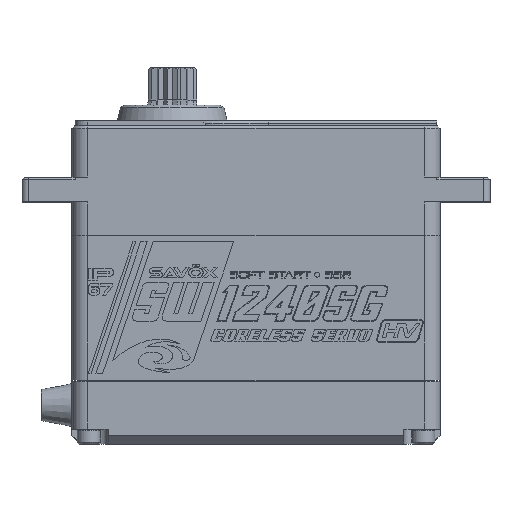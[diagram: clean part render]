
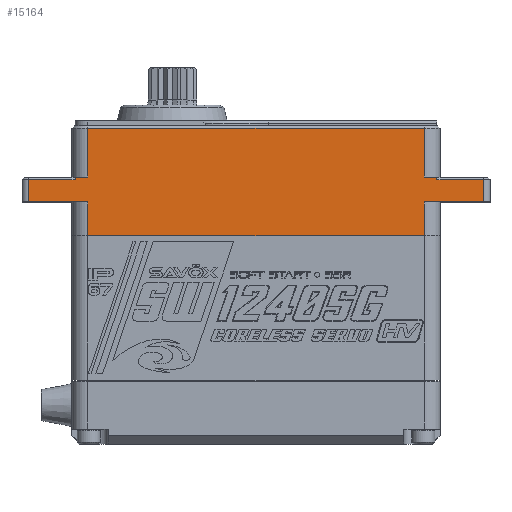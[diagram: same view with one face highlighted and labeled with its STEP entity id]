
A CAD part, top view. The second image highlights one B-rep face of the part: STEP entity #15164.
In plain terms, the highlighted planar face has unit normal (0, 0, 1).
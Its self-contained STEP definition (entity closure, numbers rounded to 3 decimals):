
#135 = ORIENTED_EDGE ( 'NONE', *, *, #6417, .F. ) ;
#343 = PLANE ( 'NONE',  #15734 ) ;
#466 = LINE ( 'NONE', #32933, #11670 ) ;
#509 = VECTOR ( 'NONE', #16575, 1000. ) ;
#1052 = CARTESIAN_POINT ( 'NONE',  ( 42.91, 3.6, 14.5 ) ) ;
#1251 = EDGE_CURVE ( 'NONE', #25805, #27535, #466, .T. ) ;
#1356 = CARTESIAN_POINT ( 'NONE',  ( 49.91, 3.6, 14.5 ) ) ;
#2468 = CARTESIAN_POINT ( 'NONE',  ( -13.59, 11.8, 14.5 ) ) ;
#2561 = VECTOR ( 'NONE', #33308, 1000. ) ;
#3022 = EDGE_CURVE ( 'NONE', #26214, #32705, #41050, .T. ) ;
#3248 = CARTESIAN_POINT ( 'NONE',  ( 42.41, 4., 14.5 ) ) ;
#3491 = VECTOR ( 'NONE', #35565, 1000. ) ;
#3664 = VERTEX_POINT ( 'NONE', #3248 ) ;
#3745 = CARTESIAN_POINT ( 'NONE',  ( 42.41, 3.6, 14.5 ) ) ;
#4794 = CARTESIAN_POINT ( 'NONE',  ( 40.41, 0., 14.5 ) ) ;
#5344 = EDGE_CURVE ( 'NONE', #10878, #34722, #10591, .T. ) ;
#6025 = VERTEX_POINT ( 'NONE', #25762 ) ;
#6087 = ORIENTED_EDGE ( 'NONE', *, *, #29195, .F. ) ;
#6361 = CARTESIAN_POINT ( 'NONE',  ( -13.59, 4., 14.5 ) ) ;
#6417 = EDGE_CURVE ( 'NONE', #32615, #10136, #34777, .T. ) ;
#6473 = CARTESIAN_POINT ( 'NONE',  ( -15.59, 4., 14.5 ) ) ;
#6906 = ORIENTED_EDGE ( 'NONE', *, *, #22953, .F. ) ;
#7011 = VECTOR ( 'NONE', #12028, 1000. ) ;
#8202 = VERTEX_POINT ( 'NONE', #38877 ) ;
#8780 = VECTOR ( 'NONE', #28165, 1000. ) ;
#9494 = CARTESIAN_POINT ( 'NONE',  ( -23.09, 13., 14.5 ) ) ;
#9963 = ORIENTED_EDGE ( 'NONE', *, *, #1251, .F. ) ;
#10136 = VERTEX_POINT ( 'NONE', #15707 ) ;
#10354 = DIRECTION ( 'NONE',  ( 0., -1., 0. ) ) ;
#10591 = LINE ( 'NONE', #16589, #14712 ) ;
#10820 = DIRECTION ( 'NONE',  ( 0., 1., 0. ) ) ;
#10878 = VERTEX_POINT ( 'NONE', #36876 ) ;
#10982 = ORIENTED_EDGE ( 'NONE', *, *, #34478, .F. ) ;
#11521 = CARTESIAN_POINT ( 'NONE',  ( 42.91, 0., 14.5 ) ) ;
#11670 = VECTOR ( 'NONE', #10820, 1000. ) ;
#12028 = DIRECTION ( 'NONE',  ( 0., 1., 0. ) ) ;
#12337 = ORIENTED_EDGE ( 'NONE', *, *, #15350, .F. ) ;
#12647 = FACE_OUTER_BOUND ( 'NONE', #31486, .T. ) ;
#13597 = VECTOR ( 'NONE', #17617, 1000. ) ;
#13636 = VECTOR ( 'NONE', #21138, 1000. ) ;
#14712 = VECTOR ( 'NONE', #26542, 1000. ) ;
#15164 = ADVANCED_FACE ( 'NONE', ( #12647 ), #343, .F. ) ;
#15350 = EDGE_CURVE ( 'NONE', #19691, #38896, #40548, .T. ) ;
#15626 = DIRECTION ( 'NONE',  ( 1., 0., 0. ) ) ;
#15707 = CARTESIAN_POINT ( 'NONE',  ( -13.59, 0., 14.5 ) ) ;
#15734 = AXIS2_PLACEMENT_3D ( 'NONE', #16497, #29005, #18838 ) ;
#16486 = VERTEX_POINT ( 'NONE', #27916 ) ;
#16497 = CARTESIAN_POINT ( 'NONE',  ( -13.59, -5.4, 14.5 ) ) ;
#16575 = DIRECTION ( 'NONE',  ( 1., 0., 0. ) ) ;
#16589 = CARTESIAN_POINT ( 'NONE',  ( -15.59, 13., 14.5 ) ) ;
#16860 = ORIENTED_EDGE ( 'NONE', *, *, #21734, .F. ) ;
#17617 = DIRECTION ( 'NONE',  ( 1., 0., 0. ) ) ;
#18141 = EDGE_CURVE ( 'NONE', #10136, #26214, #20937, .T. ) ;
#18207 = DIRECTION ( 'NONE',  ( 0., -1., 0. ) ) ;
#18384 = CARTESIAN_POINT ( 'NONE',  ( 49.91, 0., 14.5 ) ) ;
#18838 = DIRECTION ( 'NONE',  ( -1., 0., 0. ) ) ;
#19210 = ORIENTED_EDGE ( 'NONE', *, *, #38489, .F. ) ;
#19269 = LINE ( 'NONE', #25633, #3491 ) ;
#19380 = EDGE_CURVE ( 'NONE', #34722, #25805, #41912, .T. ) ;
#19691 = VERTEX_POINT ( 'NONE', #18384 ) ;
#20165 = LINE ( 'NONE', #33085, #8780 ) ;
#20390 = LINE ( 'NONE', #36230, #13597 ) ;
#20404 = LINE ( 'NONE', #33312, #40564 ) ;
#20937 = LINE ( 'NONE', #30265, #36254 ) ;
#21138 = DIRECTION ( 'NONE',  ( 1., 0., 0. ) ) ;
#21734 = EDGE_CURVE ( 'NONE', #22909, #19691, #41009, .T. ) ;
#22344 = EDGE_CURVE ( 'NONE', #38896, #16486, #20404, .T. ) ;
#22384 = ORIENTED_EDGE ( 'NONE', *, *, #3022, .F. ) ;
#22389 = ORIENTED_EDGE ( 'NONE', *, *, #41223, .F. ) ;
#22668 = ORIENTED_EDGE ( 'NONE', *, *, #5344, .F. ) ;
#22902 = ORIENTED_EDGE ( 'NONE', *, *, #19380, .F. ) ;
#22909 = VERTEX_POINT ( 'NONE', #1356 ) ;
#22953 = EDGE_CURVE ( 'NONE', #32705, #10878, #28542, .T. ) ;
#22995 = VECTOR ( 'NONE', #18207, 1000. ) ;
#23470 = ORIENTED_EDGE ( 'NONE', *, *, #22344, .F. ) ;
#23808 = VECTOR ( 'NONE', #10354, 1000. ) ;
#23998 = LINE ( 'NONE', #1052, #2561 ) ;
#24125 = DIRECTION ( 'NONE',  ( -1., 0., 0. ) ) ;
#24518 = DIRECTION ( 'NONE',  ( -1., 0., 0. ) ) ;
#24981 = CARTESIAN_POINT ( 'NONE',  ( 49.91, 13., 14.5 ) ) ;
#25149 = CARTESIAN_POINT ( 'NONE',  ( 42.91, 3.6, 14.5 ) ) ;
#25633 = CARTESIAN_POINT ( 'NONE',  ( -13.59, -5.4, 14.5 ) ) ;
#25762 = CARTESIAN_POINT ( 'NONE',  ( 40.41, 11.8, 14.5 ) ) ;
#25805 = VERTEX_POINT ( 'NONE', #6361 ) ;
#26214 = VERTEX_POINT ( 'NONE', #39796 ) ;
#26400 = ORIENTED_EDGE ( 'NONE', *, *, #28218, .F. ) ;
#26527 = VERTEX_POINT ( 'NONE', #3745 ) ;
#26542 = DIRECTION ( 'NONE',  ( 0., 1., 0. ) ) ;
#27535 = VERTEX_POINT ( 'NONE', #2468 ) ;
#27813 = DIRECTION ( 'NONE',  ( 0., -1., 0. ) ) ;
#27916 = CARTESIAN_POINT ( 'NONE',  ( 40.41, -5.4, 14.5 ) ) ;
#28165 = DIRECTION ( 'NONE',  ( 0., -1., 0. ) ) ;
#28173 = LINE ( 'NONE', #41016, #35948 ) ;
#28218 = EDGE_CURVE ( 'NONE', #6025, #8202, #20165, .T. ) ;
#28542 = LINE ( 'NONE', #25149, #13636 ) ;
#28936 = CARTESIAN_POINT ( 'NONE',  ( -23.09, 3.6, 14.5 ) ) ;
#29005 = DIRECTION ( 'NONE',  ( 0., 0., -1. ) ) ;
#29195 = EDGE_CURVE ( 'NONE', #8202, #3664, #28173, .T. ) ;
#30265 = CARTESIAN_POINT ( 'NONE',  ( 42.91, 0., 14.5 ) ) ;
#31486 = EDGE_LOOP ( 'NONE', ( #36555, #23470, #12337, #16860, #19210, #22389, #6087, #26400, #10982, #9963, #22902, #22668, #6906, #22384, #38338, #135 ) ) ;
#32615 = VERTEX_POINT ( 'NONE', #38190 ) ;
#32663 = CARTESIAN_POINT ( 'NONE',  ( 42.91, 4., 14.5 ) ) ;
#32705 = VERTEX_POINT ( 'NONE', #28936 ) ;
#32933 = CARTESIAN_POINT ( 'NONE',  ( -13.59, 13., 14.5 ) ) ;
#33077 = LINE ( 'NONE', #33269, #23808 ) ;
#33085 = CARTESIAN_POINT ( 'NONE',  ( 40.41, 13., 14.5 ) ) ;
#33269 = CARTESIAN_POINT ( 'NONE',  ( 42.41, 13., 14.5 ) ) ;
#33308 = DIRECTION ( 'NONE',  ( 1., 0., 0. ) ) ;
#33312 = CARTESIAN_POINT ( 'NONE',  ( 40.41, -5.4, 14.5 ) ) ;
#34478 = EDGE_CURVE ( 'NONE', #27535, #6025, #20390, .T. ) ;
#34722 = VERTEX_POINT ( 'NONE', #6473 ) ;
#34777 = LINE ( 'NONE', #41478, #40389 ) ;
#35565 = DIRECTION ( 'NONE',  ( -1., 0., 0. ) ) ;
#35948 = VECTOR ( 'NONE', #15626, 1000. ) ;
#36230 = CARTESIAN_POINT ( 'NONE',  ( 42.91, 11.8, 14.5 ) ) ;
#36254 = VECTOR ( 'NONE', #24125, 1000. ) ;
#36555 = ORIENTED_EDGE ( 'NONE', *, *, #41463, .F. ) ;
#36876 = CARTESIAN_POINT ( 'NONE',  ( -15.59, 3.6, 14.5 ) ) ;
#38190 = CARTESIAN_POINT ( 'NONE',  ( -13.59, -5.4, 14.5 ) ) ;
#38338 = ORIENTED_EDGE ( 'NONE', *, *, #18141, .F. ) ;
#38489 = EDGE_CURVE ( 'NONE', #26527, #22909, #23998, .T. ) ;
#38877 = CARTESIAN_POINT ( 'NONE',  ( 40.41, 4., 14.5 ) ) ;
#38896 = VERTEX_POINT ( 'NONE', #4794 ) ;
#39796 = CARTESIAN_POINT ( 'NONE',  ( -23.09, 0., 14.5 ) ) ;
#40019 = VECTOR ( 'NONE', #24518, 1000. ) ;
#40389 = VECTOR ( 'NONE', #41070, 1000. ) ;
#40548 = LINE ( 'NONE', #11521, #40019 ) ;
#40564 = VECTOR ( 'NONE', #27813, 1000. ) ;
#41009 = LINE ( 'NONE', #24981, #22995 ) ;
#41016 = CARTESIAN_POINT ( 'NONE',  ( 42.91, 4., 14.5 ) ) ;
#41050 = LINE ( 'NONE', #9494, #7011 ) ;
#41070 = DIRECTION ( 'NONE',  ( 0., 1., 0. ) ) ;
#41223 = EDGE_CURVE ( 'NONE', #3664, #26527, #33077, .T. ) ;
#41463 = EDGE_CURVE ( 'NONE', #16486, #32615, #19269, .T. ) ;
#41478 = CARTESIAN_POINT ( 'NONE',  ( -13.59, -5.4, 14.5 ) ) ;
#41912 = LINE ( 'NONE', #32663, #509 ) ;
